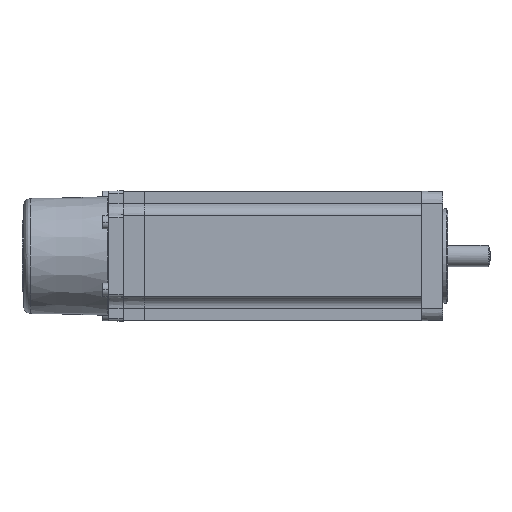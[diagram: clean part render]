
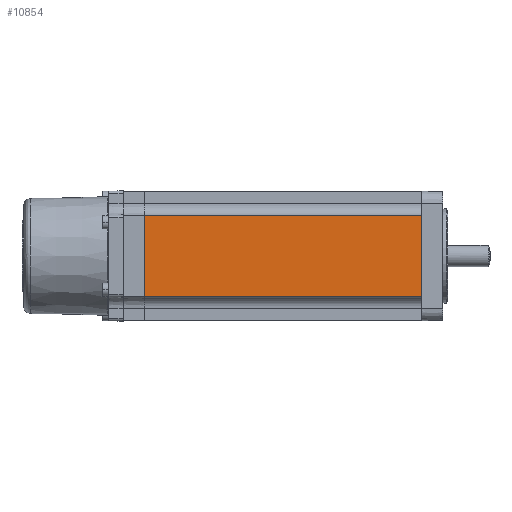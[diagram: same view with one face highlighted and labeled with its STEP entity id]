
A CAD part, front view. The second image highlights one B-rep face of the part: STEP entity #10854.
In plain terms, the highlighted planar face has unit normal (0, -1, 0) as drawn and (0, 1, 0) by its records, which use the part's own axes.
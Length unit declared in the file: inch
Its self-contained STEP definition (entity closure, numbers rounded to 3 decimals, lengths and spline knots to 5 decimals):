
#7435 = FACE_OUTER_BOUND ( 'NONE', #29556, .T. ) ;
#9710 = DIRECTION ( 'NONE',  ( 0., 0., -1. ) ) ;
#10854 = ADVANCED_FACE ( 'NONE', ( #7435 ), #141560, .F. ) ;
#12117 = AXIS2_PLACEMENT_3D ( 'NONE', #31377, #75503, #9710 ) ;
#13516 = LINE ( 'NONE', #40999, #16953 ) ;
#14233 = LINE ( 'NONE', #84985, #43470 ) ;
#16953 = VECTOR ( 'NONE', #96259, 39.37008 ) ;
#19222 = VECTOR ( 'NONE', #137113, 39.37008 ) ;
#22254 = DIRECTION ( 'NONE',  ( -1., 0., 0. ) ) ;
#29556 = EDGE_LOOP ( 'NONE', ( #142596, #116204, #134348, #74741 ) ) ;
#31377 = CARTESIAN_POINT ( 'NONE',  ( -1.08268, 1.08268, -2.3189 ) ) ;
#33676 = CARTESIAN_POINT ( 'NONE',  ( 0.68007, 1.08268, 2.3189 ) ) ;
#38914 = EDGE_CURVE ( 'NONE', #122753, #40073, #120303, .T. ) ;
#40073 = VERTEX_POINT ( 'NONE', #109344 ) ;
#40999 = CARTESIAN_POINT ( 'NONE',  ( -1.08268, 1.08268, -2.3189 ) ) ;
#42902 = EDGE_CURVE ( 'NONE', #40073, #49434, #103515, .T. ) ;
#43470 = VECTOR ( 'NONE', #96079, 39.37008 ) ;
#49434 = VERTEX_POINT ( 'NONE', #137300 ) ;
#74741 = ORIENTED_EDGE ( 'NONE', *, *, #42902, .F. ) ;
#75503 = DIRECTION ( 'NONE',  ( 0., -1., 0. ) ) ;
#84985 = CARTESIAN_POINT ( 'NONE',  ( 0.68007, 1.08268, -2.3189 ) ) ;
#93563 = EDGE_CURVE ( 'NONE', #49434, #94149, #13516, .T. ) ;
#94149 = VERTEX_POINT ( 'NONE', #95965 ) ;
#95965 = CARTESIAN_POINT ( 'NONE',  ( 0.68007, 1.08268, -2.3189 ) ) ;
#96079 = DIRECTION ( 'NONE',  ( 0., 0., 1. ) ) ;
#96259 = DIRECTION ( 'NONE',  ( 1., 0., 0. ) ) ;
#98126 = CARTESIAN_POINT ( 'NONE',  ( -0.68007, 1.08268, -2.3189 ) ) ;
#103515 = LINE ( 'NONE', #98126, #19222 ) ;
#109344 = CARTESIAN_POINT ( 'NONE',  ( -0.68007, 1.08268, 2.3189 ) ) ;
#114149 = EDGE_CURVE ( 'NONE', #94149, #122753, #14233, .T. ) ;
#116204 = ORIENTED_EDGE ( 'NONE', *, *, #114149, .F. ) ;
#120303 = LINE ( 'NONE', #120874, #142680 ) ;
#120874 = CARTESIAN_POINT ( 'NONE',  ( 1.08268, 1.08268, 2.3189 ) ) ;
#122753 = VERTEX_POINT ( 'NONE', #33676 ) ;
#134348 = ORIENTED_EDGE ( 'NONE', *, *, #93563, .F. ) ;
#137113 = DIRECTION ( 'NONE',  ( 0., 0., -1. ) ) ;
#137300 = CARTESIAN_POINT ( 'NONE',  ( -0.68007, 1.08268, -2.3189 ) ) ;
#141560 = PLANE ( 'NONE',  #12117 ) ;
#142596 = ORIENTED_EDGE ( 'NONE', *, *, #38914, .F. ) ;
#142680 = VECTOR ( 'NONE', #22254, 39.37008 ) ;
